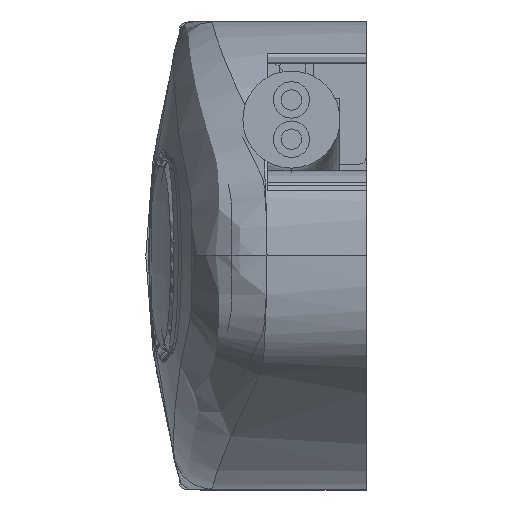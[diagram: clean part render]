
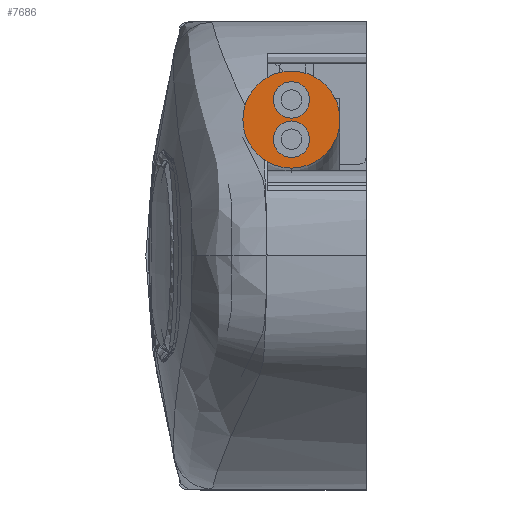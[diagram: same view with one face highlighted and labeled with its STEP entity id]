
A CAD part, left-side view. The second image highlights one B-rep face of the part: STEP entity #7686.
In plain terms, the highlighted planar face has unit normal (-1, 0, 0).
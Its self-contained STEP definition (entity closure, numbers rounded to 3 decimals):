
#378 = DIRECTION ( 'NONE',  ( -1., 0., 0. ) ) ;
#524 = DIRECTION ( 'NONE',  ( 0., 0., -1. ) ) ;
#554 = CIRCLE ( 'NONE', #11772, 0.7 ) ;
#1045 = CARTESIAN_POINT ( 'NONE',  ( -323.41, 0., -5.15 ) ) ;
#1057 = CARTESIAN_POINT ( 'NONE',  ( -323.41, 0., -5.95 ) ) ;
#1490 = FACE_OUTER_BOUND ( 'NONE', #20188, .T. ) ;
#1744 = EDGE_CURVE ( 'NONE', #1974, #19456, #17910, .T. ) ;
#1974 = VERTEX_POINT ( 'NONE', #22821 ) ;
#2171 = EDGE_CURVE ( 'NONE', #15972, #17369, #3306, .T. ) ;
#2971 = DIRECTION ( 'NONE',  ( 0., 0., -1. ) ) ;
#3306 = CIRCLE ( 'NONE', #20110, 0.7 ) ;
#4074 = DIRECTION ( 'NONE',  ( -1., 0., 0. ) ) ;
#4272 = PLANE ( 'NONE',  #23905 ) ;
#5750 = CIRCLE ( 'NONE', #7748, 1.85 ) ;
#6549 = FACE_BOUND ( 'NONE', #21491, .T. ) ;
#6697 = EDGE_CURVE ( 'NONE', #22228, #18357, #5750, .T. ) ;
#7538 = DIRECTION ( 'NONE',  ( -1., 0., 0. ) ) ;
#7686 = ADVANCED_FACE ( 'NONE', ( #6549, #21774, #1490 ), #4272, .F. ) ;
#7748 = AXIS2_PLACEMENT_3D ( 'NONE', #11319, #24653, #13242 ) ;
#8297 = EDGE_LOOP ( 'NONE', ( #19843, #14632 ) ) ;
#8401 = CARTESIAN_POINT ( 'NONE',  ( -323.41, 0., -5.2 ) ) ;
#8531 = ORIENTED_EDGE ( 'NONE', *, *, #6697, .F. ) ;
#8724 = AXIS2_PLACEMENT_3D ( 'NONE', #19003, #7538, #20907 ) ;
#9182 = CIRCLE ( 'NONE', #8724, 0.7 ) ;
#9231 = CARTESIAN_POINT ( 'NONE',  ( -323.41, 0., -3.75 ) ) ;
#9740 = EDGE_CURVE ( 'NONE', #19456, #1974, #554, .T. ) ;
#10022 = CARTESIAN_POINT ( 'NONE',  ( -323.41, 0., -5.2 ) ) ;
#10290 = EDGE_CURVE ( 'NONE', #17369, #15972, #9182, .T. ) ;
#10321 = DIRECTION ( 'NONE',  ( 0., 0., -1. ) ) ;
#11319 = CARTESIAN_POINT ( 'NONE',  ( -323.41, 0., -5.2 ) ) ;
#11772 = AXIS2_PLACEMENT_3D ( 'NONE', #15533, #4074, #17446 ) ;
#11802 = CARTESIAN_POINT ( 'NONE',  ( -323.41, 0., -4.45 ) ) ;
#11959 = DIRECTION ( 'NONE',  ( 1., 0., 0. ) ) ;
#12143 = ORIENTED_EDGE ( 'NONE', *, *, #1744, .F. ) ;
#13242 = DIRECTION ( 'NONE',  ( 0., 0., -1. ) ) ;
#13732 = DIRECTION ( 'NONE',  ( 0., 0., 1. ) ) ;
#14116 = CARTESIAN_POINT ( 'NONE',  ( -323.41, 0., -5.25 ) ) ;
#14418 = DIRECTION ( 'NONE',  ( -1., 0., 0. ) ) ;
#14548 = EDGE_CURVE ( 'NONE', #18357, #22228, #22338, .T. ) ;
#14632 = ORIENTED_EDGE ( 'NONE', *, *, #10290, .F. ) ;
#15533 = CARTESIAN_POINT ( 'NONE',  ( -323.41, 0., -5.95 ) ) ;
#15972 = VERTEX_POINT ( 'NONE', #1045 ) ;
#17369 = VERTEX_POINT ( 'NONE', #9231 ) ;
#17446 = DIRECTION ( 'NONE',  ( 0., 0., -1. ) ) ;
#17771 = ORIENTED_EDGE ( 'NONE', *, *, #14548, .F. ) ;
#17910 = CIRCLE ( 'NONE', #21833, 0.7 ) ;
#18357 = VERTEX_POINT ( 'NONE', #24712 ) ;
#19003 = CARTESIAN_POINT ( 'NONE',  ( -323.41, 0., -4.45 ) ) ;
#19456 = VERTEX_POINT ( 'NONE', #14116 ) ;
#19843 = ORIENTED_EDGE ( 'NONE', *, *, #2171, .F. ) ;
#20110 = AXIS2_PLACEMENT_3D ( 'NONE', #11802, #378, #13732 ) ;
#20188 = EDGE_LOOP ( 'NONE', ( #17771, #8531 ) ) ;
#20907 = DIRECTION ( 'NONE',  ( 0., 0., 1. ) ) ;
#21491 = EDGE_LOOP ( 'NONE', ( #12143, #23449 ) ) ;
#21750 = DIRECTION ( 'NONE',  ( 1., 0., 0. ) ) ;
#21774 = FACE_BOUND ( 'NONE', #8297, .T. ) ;
#21833 = AXIS2_PLACEMENT_3D ( 'NONE', #1057, #14418, #2971 ) ;
#22228 = VERTEX_POINT ( 'NONE', #22839 ) ;
#22338 = CIRCLE ( 'NONE', #22465, 1.85 ) ;
#22465 = AXIS2_PLACEMENT_3D ( 'NONE', #8401, #21750, #10321 ) ;
#22821 = CARTESIAN_POINT ( 'NONE',  ( -323.41, 0., -6.65 ) ) ;
#22839 = CARTESIAN_POINT ( 'NONE',  ( -323.41, 0., -7.05 ) ) ;
#23449 = ORIENTED_EDGE ( 'NONE', *, *, #9740, .F. ) ;
#23905 = AXIS2_PLACEMENT_3D ( 'NONE', #10022, #11959, #524 ) ;
#24653 = DIRECTION ( 'NONE',  ( 1., 0., 0. ) ) ;
#24712 = CARTESIAN_POINT ( 'NONE',  ( -323.41, 0., -3.35 ) ) ;
